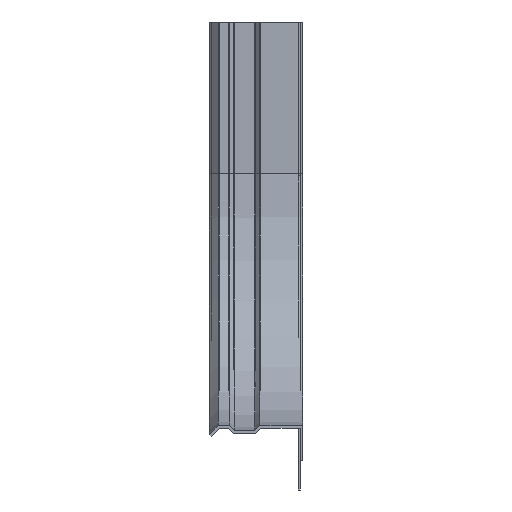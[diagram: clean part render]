
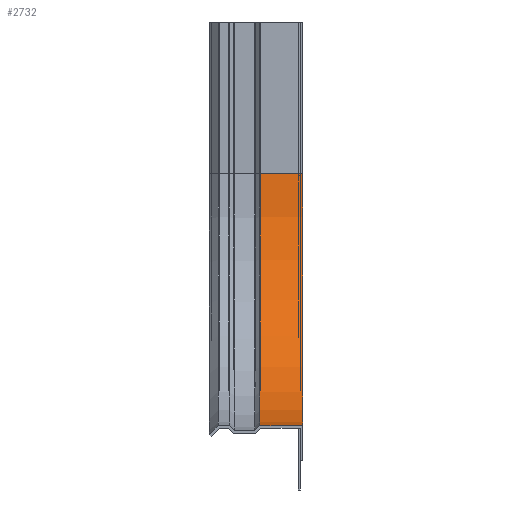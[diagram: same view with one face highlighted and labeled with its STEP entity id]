
A CAD part, left-side view. The second image highlights one B-rep face of the part: STEP entity #2732.
In plain terms, the highlighted cylindrical face has radius 100 mm (diameter 200 mm), a partial arc.
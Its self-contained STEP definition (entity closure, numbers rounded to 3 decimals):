
#361 = DIRECTION ( 'NONE',  ( 0., -1., 0. ) ) ;
#507 = ORIENTED_EDGE ( 'NONE', *, *, #1816, .T. ) ;
#519 = VECTOR ( 'NONE', #1693, 1000. ) ;
#572 = AXIS2_PLACEMENT_3D ( 'NONE', #1346, #2159, #2823 ) ;
#831 = CIRCLE ( 'NONE', #1017, 100. ) ;
#1006 = CIRCLE ( 'NONE', #3186, 100. ) ;
#1017 = AXIS2_PLACEMENT_3D ( 'NONE', #2653, #1469, #3858 ) ;
#1220 = VERTEX_POINT ( 'NONE', #2933 ) ;
#1346 = CARTESIAN_POINT ( 'NONE',  ( -60., 0., 60. ) ) ;
#1456 = VERTEX_POINT ( 'NONE', #3650 ) ;
#1469 = DIRECTION ( 'NONE',  ( 0., -1., 0. ) ) ;
#1625 = DIRECTION ( 'NONE',  ( 0., 0., -1. ) ) ;
#1693 = DIRECTION ( 'NONE',  ( 0., 1., 0. ) ) ;
#1746 = CARTESIAN_POINT ( 'NONE',  ( -160., 0., 60. ) ) ;
#1764 = EDGE_CURVE ( 'NONE', #3741, #2425, #2109, .T. ) ;
#1816 = EDGE_CURVE ( 'NONE', #1456, #3741, #1006, .T. ) ;
#1985 = LINE ( 'NONE', #2545, #519 ) ;
#2109 = LINE ( 'NONE', #1746, #2870 ) ;
#2159 = DIRECTION ( 'NONE',  ( 0., -1., 0. ) ) ;
#2176 = CYLINDRICAL_SURFACE ( 'NONE', #572, 100. ) ;
#2425 = VERTEX_POINT ( 'NONE', #3164 ) ;
#2545 = CARTESIAN_POINT ( 'NONE',  ( -60., 0., 160. ) ) ;
#2653 = CARTESIAN_POINT ( 'NONE',  ( -60., 17., 60. ) ) ;
#2710 = ORIENTED_EDGE ( 'NONE', *, *, #2972, .F. ) ;
#2732 = ADVANCED_FACE ( 'NONE', ( #3669 ), #2176, .F. ) ;
#2823 = DIRECTION ( 'NONE',  ( 0., 0., -1. ) ) ;
#2870 = VECTOR ( 'NONE', #3300, 1000. ) ;
#2907 = EDGE_LOOP ( 'NONE', ( #3136, #507, #3863, #2710 ) ) ;
#2921 = EDGE_CURVE ( 'NONE', #1456, #1220, #1985, .T. ) ;
#2933 = CARTESIAN_POINT ( 'NONE',  ( -60., 17., 160. ) ) ;
#2972 = EDGE_CURVE ( 'NONE', #1220, #2425, #831, .T. ) ;
#3136 = ORIENTED_EDGE ( 'NONE', *, *, #2921, .F. ) ;
#3164 = CARTESIAN_POINT ( 'NONE',  ( -160., 17., 60. ) ) ;
#3186 = AXIS2_PLACEMENT_3D ( 'NONE', #3614, #361, #1625 ) ;
#3300 = DIRECTION ( 'NONE',  ( 0., 1., 0. ) ) ;
#3614 = CARTESIAN_POINT ( 'NONE',  ( -60., 0., 60. ) ) ;
#3650 = CARTESIAN_POINT ( 'NONE',  ( -60., 0., 160. ) ) ;
#3669 = FACE_OUTER_BOUND ( 'NONE', #2907, .T. ) ;
#3741 = VERTEX_POINT ( 'NONE', #3833 ) ;
#3833 = CARTESIAN_POINT ( 'NONE',  ( -160., 0., 60. ) ) ;
#3858 = DIRECTION ( 'NONE',  ( 0., 0., -1. ) ) ;
#3863 = ORIENTED_EDGE ( 'NONE', *, *, #1764, .T. ) ;
